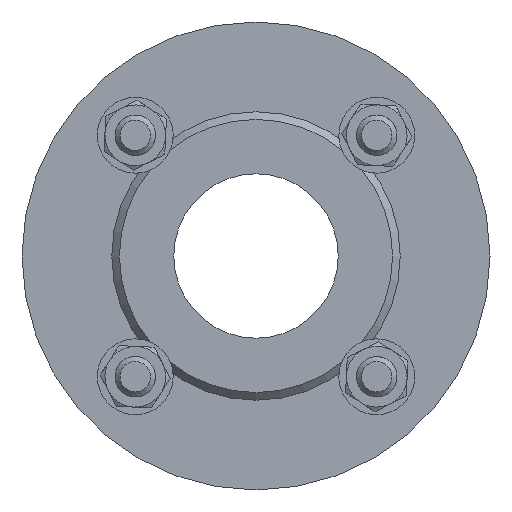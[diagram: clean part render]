
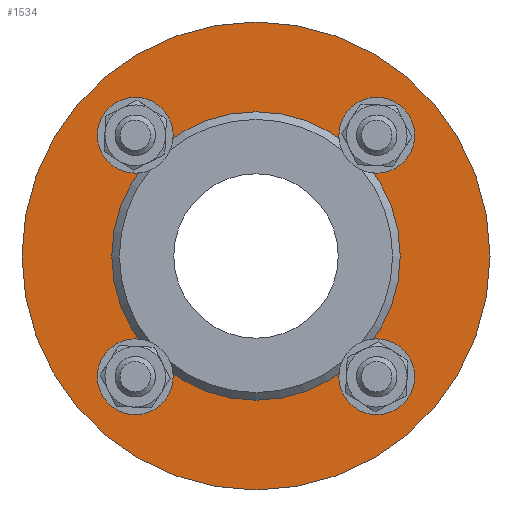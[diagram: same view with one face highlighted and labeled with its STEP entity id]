
A CAD part, left-side view. The second image highlights one B-rep face of the part: STEP entity #1534.
In plain terms, the highlighted planar face has unit normal (-1, 0, 0).
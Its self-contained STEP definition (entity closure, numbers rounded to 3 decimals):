
#272 = FACE_OUTER_BOUND ( 'NONE', #733, .T. ) ;
#535 = EDGE_LOOP ( 'NONE', ( #15025 ) ) ;
#563 = DIRECTION ( 'NONE',  ( -1., 0., 0. ) ) ;
#710 = CARTESIAN_POINT ( 'NONE',  ( -33., 92.5, 0. ) ) ;
#733 = EDGE_LOOP ( 'NONE', ( #13216 ) ) ;
#868 = CIRCLE ( 'NONE', #3322, 8. ) ;
#1059 = CARTESIAN_POINT ( 'NONE',  ( -33., 47.73, 47.73 ) ) ;
#1070 = ORIENTED_EDGE ( 'NONE', *, *, #10771, .F. ) ;
#1352 = DIRECTION ( 'NONE',  ( 1., 0., 0. ) ) ;
#1413 = CIRCLE ( 'NONE', #12884, 92.5 ) ;
#1534 = ADVANCED_FACE ( 'NONE', ( #12903, #2430, #8312, #8382, #272, #11824 ), #7232, .F. ) ;
#1826 = EDGE_LOOP ( 'NONE', ( #6890 ) ) ;
#2430 = FACE_BOUND ( 'NONE', #14436, .T. ) ;
#3258 = ORIENTED_EDGE ( 'NONE', *, *, #5827, .F. ) ;
#3322 = AXIS2_PLACEMENT_3D ( 'NONE', #7687, #8678, #12205 ) ;
#3348 = AXIS2_PLACEMENT_3D ( 'NONE', #14269, #1352, #6010 ) ;
#3433 = DIRECTION ( 'NONE',  ( 0., 1., 0. ) ) ;
#4440 = CARTESIAN_POINT ( 'NONE',  ( -33., 47.73, 39.73 ) ) ;
#4569 = AXIS2_PLACEMENT_3D ( 'NONE', #10125, #5755, #6899 ) ;
#4888 = EDGE_CURVE ( 'NONE', #11344, #11344, #11665, .T. ) ;
#5131 = CIRCLE ( 'NONE', #10506, 57. ) ;
#5755 = DIRECTION ( 'NONE',  ( -1., 0., 0. ) ) ;
#5827 = EDGE_CURVE ( 'NONE', #6982, #6982, #868, .T. ) ;
#6010 = DIRECTION ( 'NONE',  ( 0., -1., 0. ) ) ;
#6291 = CARTESIAN_POINT ( 'NONE',  ( -33., 47.73, -55.73 ) ) ;
#6364 = VERTEX_POINT ( 'NONE', #710 ) ;
#6519 = CARTESIAN_POINT ( 'NONE',  ( -33., 57., 0. ) ) ;
#6673 = DIRECTION ( 'NONE',  ( 0., 1., 0. ) ) ;
#6676 = CARTESIAN_POINT ( 'NONE',  ( -33., -47.73, 39.73 ) ) ;
#6890 = ORIENTED_EDGE ( 'NONE', *, *, #14492, .F. ) ;
#6899 = DIRECTION ( 'NONE',  ( 0., 0., -1. ) ) ;
#6982 = VERTEX_POINT ( 'NONE', #6676 ) ;
#7226 = CIRCLE ( 'NONE', #11142, 8. ) ;
#7232 = PLANE ( 'NONE',  #3348 ) ;
#7687 = CARTESIAN_POINT ( 'NONE',  ( -33., -47.73, 47.73 ) ) ;
#7794 = DIRECTION ( 'NONE',  ( 0., 0., -1. ) ) ;
#7830 = CARTESIAN_POINT ( 'NONE',  ( -33., 0., 0. ) ) ;
#7940 = DIRECTION ( 'NONE',  ( -1., 0., 0. ) ) ;
#8312 = FACE_BOUND ( 'NONE', #12225, .T. ) ;
#8382 = FACE_BOUND ( 'NONE', #1826, .T. ) ;
#8678 = DIRECTION ( 'NONE',  ( -1., 0., 0. ) ) ;
#8931 = DIRECTION ( 'NONE',  ( -1., 0., 0. ) ) ;
#9014 = CARTESIAN_POINT ( 'NONE',  ( -33., 47.73, -47.73 ) ) ;
#9187 = VERTEX_POINT ( 'NONE', #4440 ) ;
#9954 = AXIS2_PLACEMENT_3D ( 'NONE', #9014, #8931, #7794 ) ;
#9968 = EDGE_CURVE ( 'NONE', #12100, #12100, #5131, .T. ) ;
#10125 = CARTESIAN_POINT ( 'NONE',  ( -33., -47.73, -47.73 ) ) ;
#10392 = DIRECTION ( 'NONE',  ( 0., 0., -1. ) ) ;
#10506 = AXIS2_PLACEMENT_3D ( 'NONE', #7830, #563, #6673 ) ;
#10771 = EDGE_CURVE ( 'NONE', #14467, #14467, #14103, .T. ) ;
#10911 = EDGE_CURVE ( 'NONE', #6364, #6364, #1413, .T. ) ;
#11098 = EDGE_LOOP ( 'NONE', ( #3258 ) ) ;
#11142 = AXIS2_PLACEMENT_3D ( 'NONE', #1059, #7940, #10392 ) ;
#11344 = VERTEX_POINT ( 'NONE', #12495 ) ;
#11665 = CIRCLE ( 'NONE', #4569, 8. ) ;
#11824 = FACE_BOUND ( 'NONE', #535, .T. ) ;
#12100 = VERTEX_POINT ( 'NONE', #6519 ) ;
#12205 = DIRECTION ( 'NONE',  ( 0., 0., -1. ) ) ;
#12225 = EDGE_LOOP ( 'NONE', ( #1070 ) ) ;
#12400 = ORIENTED_EDGE ( 'NONE', *, *, #4888, .F. ) ;
#12495 = CARTESIAN_POINT ( 'NONE',  ( -33., -47.73, -55.73 ) ) ;
#12884 = AXIS2_PLACEMENT_3D ( 'NONE', #14048, #13898, #3433 ) ;
#12903 = FACE_BOUND ( 'NONE', #11098, .T. ) ;
#13216 = ORIENTED_EDGE ( 'NONE', *, *, #10911, .T. ) ;
#13898 = DIRECTION ( 'NONE',  ( -1., 0., 0. ) ) ;
#14048 = CARTESIAN_POINT ( 'NONE',  ( -33., 0., 0. ) ) ;
#14103 = CIRCLE ( 'NONE', #9954, 8. ) ;
#14269 = CARTESIAN_POINT ( 'NONE',  ( -33., 0., -92.5 ) ) ;
#14436 = EDGE_LOOP ( 'NONE', ( #12400 ) ) ;
#14467 = VERTEX_POINT ( 'NONE', #6291 ) ;
#14492 = EDGE_CURVE ( 'NONE', #9187, #9187, #7226, .T. ) ;
#15025 = ORIENTED_EDGE ( 'NONE', *, *, #9968, .F. ) ;
